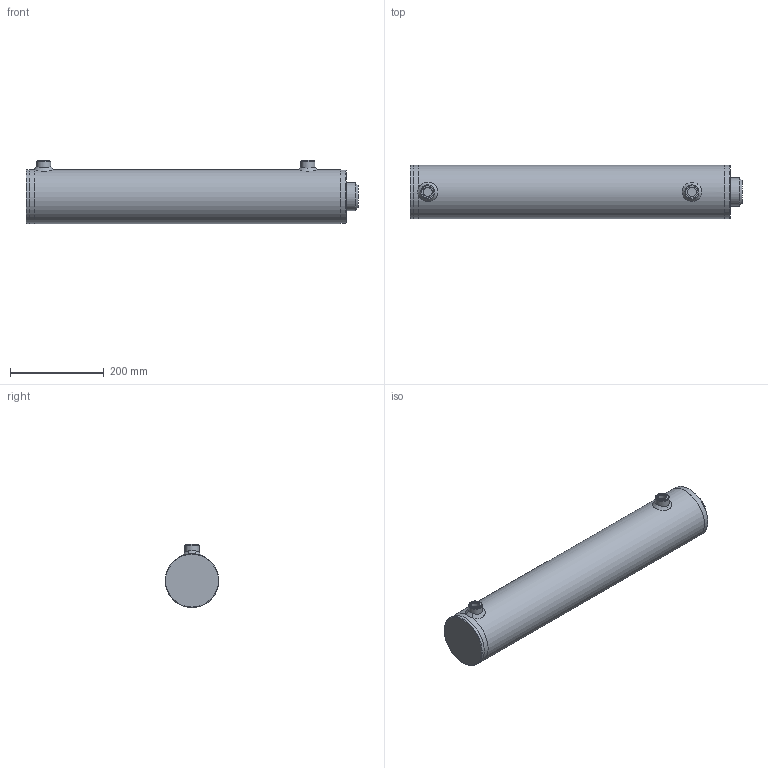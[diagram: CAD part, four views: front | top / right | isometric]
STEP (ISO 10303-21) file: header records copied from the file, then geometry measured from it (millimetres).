
FILE_DESCRIPTION( ( 'Unknown' ), '1' );
FILE_NAME( 'E:/LIBRERIA_3d/CILINDRI/HM0/HM06600500.stp', 'Unknown', ( 'Unknown' ), ( 'Unknown' ), 'PSStep 17.0.49', 'Unknown', ' ' );
FILE_SCHEMA( ( 'AUTOMOTIVE_DESIGN { 1 0 10303 214 1 1 1 1 }' ) );
Length unit declared in the file: millimetre
Products named in the file (18): CG11510060; STL6700500-oa4; Saldatura d'angolo 1-oa2; CBS0800000; FTM6700500-oa3; CT00100033; Assem1; CF00100115; Saldatura con preparazione 1-oa0; Saldatura d'angolo 1-oa1; CDA0003320; APG0800000; SBL6060500
Assembly tree (15 placements, depth 3):
  Saldatura d'angolo 1-oa2
  Saldatura d'angolo 1-oa2
  Assem1
    CF00100115
    Saldatura con preparazione 1-oa0
    Saldatura con preparazione 1-oa0
    CBS0800000
    CDA0003320
    APG0800000  x2
    SBL6060500
    CT00100033
      CT00100033
    CG11510060
      CG11510060
    STL6700500-oa4
      CBS0800000
      FTM6700500-oa3
  Saldatura d'angolo 1-oa1
  Saldatura d'angolo 1-oa1
Bounding box: 710 x 115 x 135 mm (x, y, z)
Volume: 4359538.1 mm3; surface area: 758086.6 mm2
Topology: 16 solids, 16 shells, 202 faces, 406 edges, 251 vertices
Faces by surface type: plane 60, cylinder 56, torus 36, cone 32, bspline 18
Full cylindrical faces by diameter (mm): 4.25 x1, 8 x2, 12 x1, 18.631 x2, 19.5 x2, 20.95 x2, 26 x2, 30 x2, 32.4 x1, 33 x5, 39.2 x1, 50 x1, 60 x5, 63 x3, 68.6 x1, 72 x1, 75 x1, 91.5 x1, 93.14 x2, 98.05 x2, 99.9 x1, 100 x1, 100.3 x1, 100.5 x1, 100.6 x1, 101 x1, 102 x3, 102.835 x1, 105 x1, 114 x1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
Entity records: 8690 total; most frequent: CARTESIAN_POINT 3834, DIRECTION 730, ORIENTED_EDGE 452, AXIS2_PLACEMENT_3D 352, EDGE_LOOP 347, FACE_OUTER_BOUND 280, EDGE_CURVE 226, VERTEX_POINT 200
